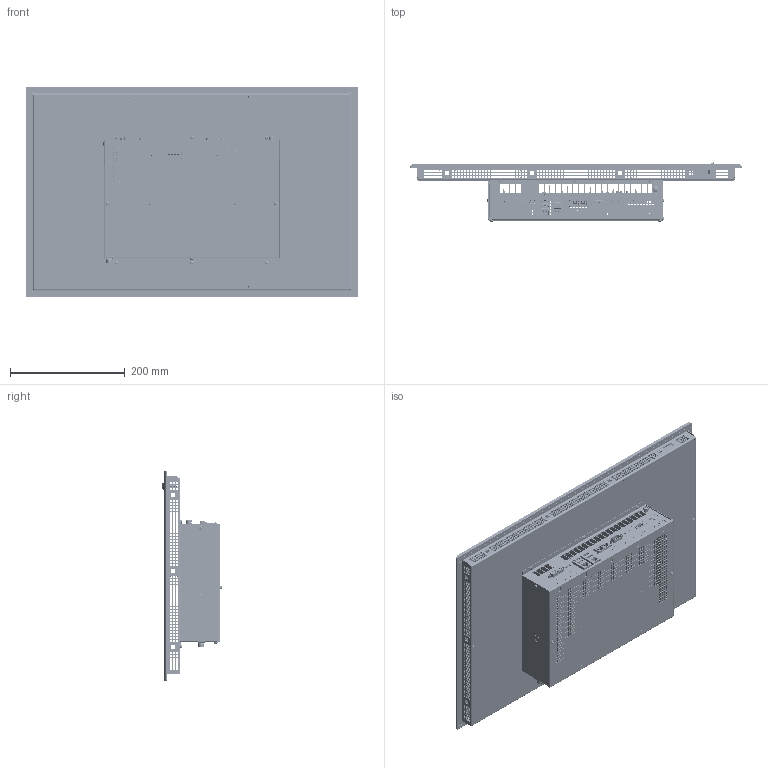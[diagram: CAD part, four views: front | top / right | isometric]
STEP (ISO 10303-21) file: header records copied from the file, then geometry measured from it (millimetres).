
FILE_DESCRIPTION (( 'STEP AP214' ), '1' );
FILE_NAME ('C6P34-Panel_215W_Res_S0.STEP', '2019-09-20T12:04:51', ( '' ), ( '' ), 'SwSTEP 2.0', 'SolidWorks 2018', '' );
FILE_SCHEMA (( 'AUTOMOTIVE_DESIGN' ));
Length unit declared in the file: millimetre
Products named in the file (148): 66320015; 57902481; 21410046; 69111028; piazzuola_de800_di370; 48000059; 56636578; 7359_056; 51524089; 14300025; 21409042; 7397_227; 23330039; 65720029; 65720030; 21502089; 58702102; 59302349; 21509026; 52536147_Default<A macchina>; 21404036; 59302349_Default<A macchina>; 14300028; 66320016; 65720078; 59702265; 51702303_Default<A macchina>; 57936014; 21410015; 66320001; D02201701; 21614000; 58702102_Default<A macchina>; 62920012; 57936013; 21405029; 21410052; 58502113_Default<A macchina>; 7359_056_Depopolato; 58755004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
Assembly tree (106 placements, depth 4):
  66320015
  57902481
  69111028
  piazzuola_de800_di370
  56636578
Bounding box: 578.5 x 103.72 x 367 mm (x, y, z)
Volume: 1812931.7 mm3; surface area: 1858292.9 mm2
Topology: 220 solids, 238 shells, 27492 faces, 77289 edges, 50694 vertices
Faces by surface type: plane 21489, cylinder 4507, bspline 767, cone 599, torus 110, sphere 20
Full cylindrical faces by diameter (mm): 0.3 x9, 0.434 x1, 0.6 x30, 0.65 x6, 0.7 x165, 0.8 x36, 0.85 x66, 0.9 x175, 0.95 x11, 1 x119, 1.1 x3, 1.2 x10, 1.32 x2, 1.35 x4, 1.4 x8, 1.5 x6, 1.6 x7, 1.7 x4, 1.8 x3, 1.9 x4, 1.95 x4, 2.05 x1, 2.3 x18, 2.4 x9, 2.5 x38, 2.6 x5, 2.8 x3, 2.874 x1, 3 x76, 3.15 x2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
Entity records: 822081 total; most frequent: CARTESIAN_POINT 172492, ORIENTED_EDGE 134130, DIRECTION 118903, EDGE_CURVE 67455, VECTOR 57375, LINE 57375, VERTEX_POINT 44983, EDGE_LOOP 31595
